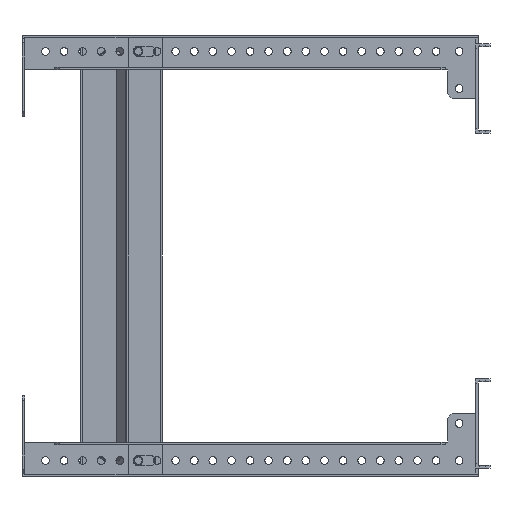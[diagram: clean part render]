
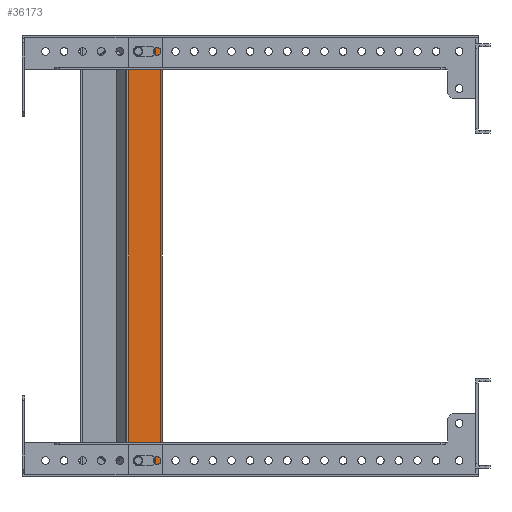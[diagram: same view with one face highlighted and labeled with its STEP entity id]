
A CAD part, front view. The second image highlights one B-rep face of the part: STEP entity #36173.
In plain terms, the highlighted planar face has unit normal (0, -1, 0).
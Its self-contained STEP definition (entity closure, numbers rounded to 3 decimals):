
#31 = DIRECTION ( 'NONE',  ( 1., 0., 0. ) ) ;
#392 = EDGE_CURVE ( 'NONE', #3806, #3107, #17372, .T. ) ;
#432 = LINE ( 'NONE', #23185, #25693 ) ;
#560 = AXIS2_PLACEMENT_3D ( 'NONE', #12100, #20786, #23379 ) ;
#1727 = DIRECTION ( 'NONE',  ( 0., -1., 0. ) ) ;
#2442 = LINE ( 'NONE', #31265, #9654 ) ;
#2973 = EDGE_CURVE ( 'NONE', #15555, #25429, #13934, .T. ) ;
#3019 = CARTESIAN_POINT ( 'NONE',  ( 1120.27, -253.815, 141. ) ) ;
#3107 = VERTEX_POINT ( 'NONE', #17782 ) ;
#3220 = ORIENTED_EDGE ( 'NONE', *, *, #7822, .F. ) ;
#3546 = CARTESIAN_POINT ( 'NONE',  ( 1112.27, -253.815, -141. ) ) ;
#3806 = VERTEX_POINT ( 'NONE', #11407 ) ;
#4046 = CIRCLE ( 'NONE', #8789, 3.5 ) ;
#4162 = ORIENTED_EDGE ( 'NONE', *, *, #2973, .T. ) ;
#4612 = CARTESIAN_POINT ( 'NONE',  ( 1112.27, -253.815, 141. ) ) ;
#5058 = CARTESIAN_POINT ( 'NONE',  ( 1120.27, -253.815, -137.5 ) ) ;
#5228 = DIRECTION ( 'NONE',  ( 0., 1., 0. ) ) ;
#5273 = CARTESIAN_POINT ( 'NONE',  ( 1120.27, -253.815, 137.5 ) ) ;
#5523 = VECTOR ( 'NONE', #8223, 1000. ) ;
#5632 = DIRECTION ( 'NONE',  ( 0., -1., 0. ) ) ;
#5824 = EDGE_LOOP ( 'NONE', ( #27250, #26673, #20568, #36357, #22472 ) ) ;
#5899 = DIRECTION ( 'NONE',  ( 1., 0., 0. ) ) ;
#6192 = EDGE_CURVE ( 'NONE', #7645, #33490, #26581, .T. ) ;
#6405 = VERTEX_POINT ( 'NONE', #3019 ) ;
#7393 = EDGE_CURVE ( 'NONE', #35573, #25429, #21904, .T. ) ;
#7453 = CARTESIAN_POINT ( 'NONE',  ( 1108.77, -253.815, -137.5 ) ) ;
#7645 = VERTEX_POINT ( 'NONE', #7453 ) ;
#7822 = EDGE_CURVE ( 'NONE', #15555, #12994, #2442, .T. ) ;
#8223 = DIRECTION ( 'NONE',  ( 1., 0., 0. ) ) ;
#8768 = ORIENTED_EDGE ( 'NONE', *, *, #19564, .T. ) ;
#8789 = AXIS2_PLACEMENT_3D ( 'NONE', #22077, #33344, #20383 ) ;
#9654 = VECTOR ( 'NONE', #25537, 1000. ) ;
#10075 = CARTESIAN_POINT ( 'NONE',  ( 1112.27, -253.815, 141. ) ) ;
#10422 = VERTEX_POINT ( 'NONE', #14816 ) ;
#10948 = EDGE_CURVE ( 'NONE', #20646, #6405, #21627, .T. ) ;
#11407 = CARTESIAN_POINT ( 'NONE',  ( 1120.27, -253.815, -141. ) ) ;
#11895 = ORIENTED_EDGE ( 'NONE', *, *, #35914, .T. ) ;
#12100 = CARTESIAN_POINT ( 'NONE',  ( 1112.27, -253.815, -137.5 ) ) ;
#12296 = ORIENTED_EDGE ( 'NONE', *, *, #10948, .T. ) ;
#12302 = DIRECTION ( 'NONE',  ( 0., 0., 1. ) ) ;
#12994 = VERTEX_POINT ( 'NONE', #32172 ) ;
#13311 = EDGE_CURVE ( 'NONE', #33490, #3806, #16990, .T. ) ;
#13768 = DIRECTION ( 'NONE',  ( 0., 1., 0. ) ) ;
#13934 = LINE ( 'NONE', #36503, #18966 ) ;
#14816 = CARTESIAN_POINT ( 'NONE',  ( 1112.27, -253.815, 134. ) ) ;
#14849 = DIRECTION ( 'NONE',  ( -1., 0., 0. ) ) ;
#15079 = CARTESIAN_POINT ( 'NONE',  ( 1105.77, -253.815, 147.5 ) ) ;
#15555 = VERTEX_POINT ( 'NONE', #22994 ) ;
#16281 = CARTESIAN_POINT ( 'NONE',  ( 1112.27, -253.815, 137.5 ) ) ;
#16337 = CARTESIAN_POINT ( 'NONE',  ( 1105.77, -253.815, 147.5 ) ) ;
#16512 = CIRCLE ( 'NONE', #560, 3.5 ) ;
#16605 = CARTESIAN_POINT ( 'NONE',  ( 1128.272, -253.815, 147.5 ) ) ;
#16707 = DIRECTION ( 'NONE',  ( -1., 0., 0. ) ) ;
#16990 = LINE ( 'NONE', #24956, #35913 ) ;
#17372 = CIRCLE ( 'NONE', #28633, 3.5 ) ;
#17782 = CARTESIAN_POINT ( 'NONE',  ( 1120.27, -253.815, -134. ) ) ;
#18359 = CARTESIAN_POINT ( 'NONE',  ( 1108.77, -253.815, 137.5 ) ) ;
#18966 = VECTOR ( 'NONE', #31122, 1000. ) ;
#19517 = AXIS2_PLACEMENT_3D ( 'NONE', #16281, #27755, #19619 ) ;
#19564 = EDGE_CURVE ( 'NONE', #28398, #10422, #432, .T. ) ;
#19590 = VECTOR ( 'NONE', #35189, 1000. ) ;
#19619 = DIRECTION ( 'NONE',  ( -1., 0., 0. ) ) ;
#19698 = VERTEX_POINT ( 'NONE', #18359 ) ;
#20383 = DIRECTION ( 'NONE',  ( -1., 0., 0. ) ) ;
#20568 = ORIENTED_EDGE ( 'NONE', *, *, #31953, .F. ) ;
#20646 = VERTEX_POINT ( 'NONE', #10075 ) ;
#20786 = DIRECTION ( 'NONE',  ( 0., -1., 0. ) ) ;
#21345 = EDGE_CURVE ( 'NONE', #12994, #35573, #36112, .T. ) ;
#21371 = VECTOR ( 'NONE', #35681, 1000. ) ;
#21516 = DIRECTION ( 'NONE',  ( -1., 0., 0. ) ) ;
#21627 = LINE ( 'NONE', #4612, #21371 ) ;
#21904 = LINE ( 'NONE', #16337, #5523 ) ;
#22063 = CARTESIAN_POINT ( 'NONE',  ( 1150.737, -253.815, 0. ) ) ;
#22077 = CARTESIAN_POINT ( 'NONE',  ( 1112.27, -253.815, 137.5 ) ) ;
#22290 = DIRECTION ( 'NONE',  ( -1., 0., 0. ) ) ;
#22421 = FACE_OUTER_BOUND ( 'NONE', #23164, .T. ) ;
#22472 = ORIENTED_EDGE ( 'NONE', *, *, #392, .F. ) ;
#22994 = CARTESIAN_POINT ( 'NONE',  ( 1128.272, -253.815, -147.5 ) ) ;
#23164 = EDGE_LOOP ( 'NONE', ( #29020, #26932, #3220, #4162 ) ) ;
#23185 = CARTESIAN_POINT ( 'NONE',  ( 1112.27, -253.815, 134. ) ) ;
#23379 = DIRECTION ( 'NONE',  ( -1., 0., 0. ) ) ;
#23934 = ORIENTED_EDGE ( 'NONE', *, *, #32516, .T. ) ;
#24280 = EDGE_CURVE ( 'NONE', #10422, #19698, #4046, .T. ) ;
#24956 = CARTESIAN_POINT ( 'NONE',  ( 1112.27, -253.815, -141. ) ) ;
#25429 = VERTEX_POINT ( 'NONE', #16605 ) ;
#25537 = DIRECTION ( 'NONE',  ( -1., 0., 0. ) ) ;
#25693 = VECTOR ( 'NONE', #14849, 1000. ) ;
#25866 = AXIS2_PLACEMENT_3D ( 'NONE', #5273, #13768, #22290 ) ;
#25986 = ORIENTED_EDGE ( 'NONE', *, *, #24280, .T. ) ;
#26364 = CARTESIAN_POINT ( 'NONE',  ( 1105.77, -253.815, -147.5 ) ) ;
#26581 = CIRCLE ( 'NONE', #36050, 3.5 ) ;
#26673 = ORIENTED_EDGE ( 'NONE', *, *, #6192, .F. ) ;
#26932 = ORIENTED_EDGE ( 'NONE', *, *, #21345, .F. ) ;
#27033 = EDGE_LOOP ( 'NONE', ( #25986, #23934, #12296, #11895, #8768 ) ) ;
#27250 = ORIENTED_EDGE ( 'NONE', *, *, #13311, .F. ) ;
#27430 = LINE ( 'NONE', #32225, #19590 ) ;
#27627 = CARTESIAN_POINT ( 'NONE',  ( 1112.27, -253.815, -137.5 ) ) ;
#27755 = DIRECTION ( 'NONE',  ( 0., 1., 0. ) ) ;
#28398 = VERTEX_POINT ( 'NONE', #29134 ) ;
#28633 = AXIS2_PLACEMENT_3D ( 'NONE', #5058, #1727, #21516 ) ;
#28834 = CARTESIAN_POINT ( 'NONE',  ( 1112.27, -253.815, -134. ) ) ;
#29020 = ORIENTED_EDGE ( 'NONE', *, *, #7393, .F. ) ;
#29134 = CARTESIAN_POINT ( 'NONE',  ( 1120.27, -253.815, 134. ) ) ;
#30553 = FACE_BOUND ( 'NONE', #5824, .T. ) ;
#31122 = DIRECTION ( 'NONE',  ( 0., 0., 1. ) ) ;
#31265 = CARTESIAN_POINT ( 'NONE',  ( 1150.113, -253.815, -147.5 ) ) ;
#31905 = CIRCLE ( 'NONE', #19517, 3.5 ) ;
#31953 = EDGE_CURVE ( 'NONE', #32706, #7645, #16512, .T. ) ;
#32172 = CARTESIAN_POINT ( 'NONE',  ( 1105.77, -253.815, -147.5 ) ) ;
#32225 = CARTESIAN_POINT ( 'NONE',  ( 1112.27, -253.815, -134. ) ) ;
#32516 = EDGE_CURVE ( 'NONE', #19698, #20646, #31905, .T. ) ;
#32706 = VERTEX_POINT ( 'NONE', #28834 ) ;
#33344 = DIRECTION ( 'NONE',  ( 0., 1., 0. ) ) ;
#33490 = VERTEX_POINT ( 'NONE', #3546 ) ;
#33513 = PLANE ( 'NONE',  #33759 ) ;
#33689 = FACE_BOUND ( 'NONE', #27033, .T. ) ;
#33759 = AXIS2_PLACEMENT_3D ( 'NONE', #22063, #5228, #31 ) ;
#35189 = DIRECTION ( 'NONE',  ( -1., 0., 0. ) ) ;
#35316 = CIRCLE ( 'NONE', #25866, 3.5 ) ;
#35573 = VERTEX_POINT ( 'NONE', #15079 ) ;
#35681 = DIRECTION ( 'NONE',  ( 1., 0., 0. ) ) ;
#35913 = VECTOR ( 'NONE', #5899, 1000. ) ;
#35914 = EDGE_CURVE ( 'NONE', #6405, #28398, #35316, .T. ) ;
#36050 = AXIS2_PLACEMENT_3D ( 'NONE', #27627, #5632, #16707 ) ;
#36112 = LINE ( 'NONE', #26364, #36365 ) ;
#36145 = EDGE_CURVE ( 'NONE', #3107, #32706, #27430, .T. ) ;
#36173 = ADVANCED_FACE ( 'NONE', ( #22421, #30553, #33689 ), #33513, .F. ) ;
#36357 = ORIENTED_EDGE ( 'NONE', *, *, #36145, .F. ) ;
#36365 = VECTOR ( 'NONE', #12302, 1000. ) ;
#36503 = CARTESIAN_POINT ( 'NONE',  ( 1128.272, -253.815, -150.859 ) ) ;
